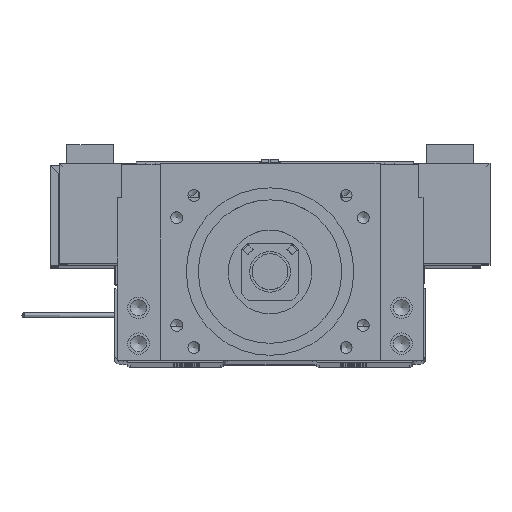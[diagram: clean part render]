
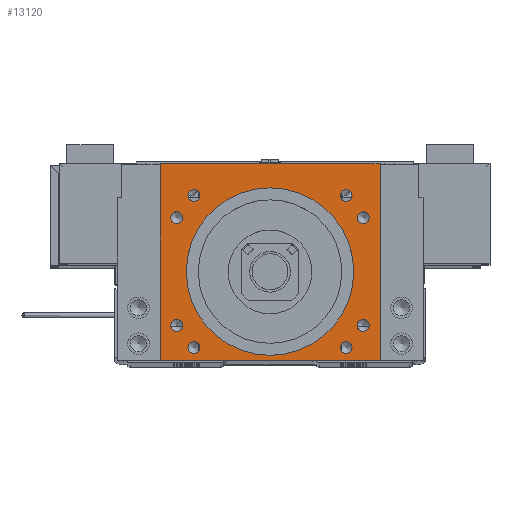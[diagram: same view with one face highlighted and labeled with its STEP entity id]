
A CAD part, top view. The second image highlights one B-rep face of the part: STEP entity #13120.
In plain terms, the highlighted planar face has unit normal (0, 0, 1).
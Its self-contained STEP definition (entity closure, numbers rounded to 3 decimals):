
#1731=CIRCLE('',#43298,35.015);
#1732=CIRCLE('',#43300,2.5);
#1733=CIRCLE('',#43301,2.5);
#1734=CIRCLE('',#43302,2.5);
#1735=CIRCLE('',#43303,2.5);
#1736=CIRCLE('',#43304,2.5);
#1737=CIRCLE('',#43305,2.5);
#1738=CIRCLE('',#43306,2.5);
#1739=CIRCLE('',#43307,2.5);
#2469=FACE_BOUND('',#19842,.T.);
#2470=FACE_BOUND('',#19843,.T.);
#2471=FACE_BOUND('',#19844,.T.);
#2472=FACE_BOUND('',#19845,.T.);
#2473=FACE_BOUND('',#19846,.T.);
#2474=FACE_BOUND('',#19847,.T.);
#2475=FACE_BOUND('',#19848,.T.);
#2476=FACE_BOUND('',#19849,.T.);
#2477=FACE_BOUND('',#19850,.T.);
#2478=FACE_BOUND('',#19851,.T.);
#3601=LINE('',#58311,#8340);
#3947=LINE('',#59719,#8686);
#3952=LINE('',#59727,#8691);
#3957=LINE('',#59736,#8696);
#8340=VECTOR('',#46506,1.);
#8686=VECTOR('',#47620,1.);
#8691=VECTOR('',#47631,1.);
#8696=VECTOR('',#47638,1.);
#13120=ADVANCED_FACE('',(#2469,#2470,#2471,#2472,#2473,#2474,#2475,#2476,
#2477,#2478),#15510,.T.);
#15510=PLANE('',#43308);
#19842=EDGE_LOOP('',(#24144,#24145,#24146,#24147));
#19843=EDGE_LOOP('',(#24148));
#19844=EDGE_LOOP('',(#24149));
#19845=EDGE_LOOP('',(#24150));
#19846=EDGE_LOOP('',(#24151));
#19847=EDGE_LOOP('',(#24152));
#19848=EDGE_LOOP('',(#24153));
#19849=EDGE_LOOP('',(#24154));
#19850=EDGE_LOOP('',(#24155));
#19851=EDGE_LOOP('',(#24156));
#24144=ORIENTED_EDGE('',*,*,#37989,.T.);
#24145=ORIENTED_EDGE('',*,*,#37442,.T.);
#24146=ORIENTED_EDGE('',*,*,#37984,.T.);
#24147=ORIENTED_EDGE('',*,*,#37994,.T.);
#24148=ORIENTED_EDGE('',*,*,#38002,.F.);
#24149=ORIENTED_EDGE('',*,*,#38003,.T.);
#24150=ORIENTED_EDGE('',*,*,#38004,.T.);
#24151=ORIENTED_EDGE('',*,*,#38005,.F.);
#24152=ORIENTED_EDGE('',*,*,#38001,.F.);
#24153=ORIENTED_EDGE('',*,*,#38006,.T.);
#24154=ORIENTED_EDGE('',*,*,#38007,.T.);
#24155=ORIENTED_EDGE('',*,*,#38008,.T.);
#24156=ORIENTED_EDGE('',*,*,#38009,.T.);
#33734=VERTEX_POINT('',#58310);
#33735=VERTEX_POINT('',#58312);
#34118=VERTEX_POINT('',#59717);
#34120=VERTEX_POINT('',#59728);
#34126=VERTEX_POINT('',#59752);
#34127=VERTEX_POINT('',#59755);
#34128=VERTEX_POINT('',#59757);
#34129=VERTEX_POINT('',#59759);
#34130=VERTEX_POINT('',#59761);
#34131=VERTEX_POINT('',#59763);
#34132=VERTEX_POINT('',#59765);
#34133=VERTEX_POINT('',#59767);
#34134=VERTEX_POINT('',#59769);
#37442=EDGE_CURVE('',#33735,#33734,#3601,.T.);
#37984=EDGE_CURVE('',#33734,#34118,#3947,.T.);
#37989=EDGE_CURVE('',#34120,#33735,#3952,.T.);
#37994=EDGE_CURVE('',#34118,#34120,#3957,.T.);
#38001=EDGE_CURVE('',#34126,#34126,#1731,.T.);
#38002=EDGE_CURVE('',#34127,#34127,#1732,.T.);
#38003=EDGE_CURVE('',#34128,#34128,#1733,.T.);
#38004=EDGE_CURVE('',#34129,#34129,#1734,.T.);
#38005=EDGE_CURVE('',#34130,#34130,#1735,.T.);
#38006=EDGE_CURVE('',#34131,#34131,#1736,.T.);
#38007=EDGE_CURVE('',#34132,#34132,#1737,.T.);
#38008=EDGE_CURVE('',#34133,#34133,#1738,.T.);
#38009=EDGE_CURVE('',#34134,#34134,#1739,.T.);
#43298=AXIS2_PLACEMENT_3D('',#59751,#47657,#47658);
#43300=AXIS2_PLACEMENT_3D('',#59754,#47661,#47662);
#43301=AXIS2_PLACEMENT_3D('',#59756,#47663,#47664);
#43302=AXIS2_PLACEMENT_3D('',#59758,#47665,#47666);
#43303=AXIS2_PLACEMENT_3D('',#59760,#47667,#47668);
#43304=AXIS2_PLACEMENT_3D('',#59762,#47669,#47670);
#43305=AXIS2_PLACEMENT_3D('',#59764,#47671,#47672);
#43306=AXIS2_PLACEMENT_3D('',#59766,#47673,#47674);
#43307=AXIS2_PLACEMENT_3D('',#59768,#47675,#47676);
#43308=AXIS2_PLACEMENT_3D('',#59770,#47677,#47678);
#46506=DIRECTION('',(-1.,0.,0.));
#47620=DIRECTION('',(0.,-1.,0.));
#47631=DIRECTION('',(0.,1.,0.));
#47638=DIRECTION('',(1.,0.,0.));
#47657=DIRECTION('',(0.,0.,1.));
#47658=DIRECTION('',(1.,0.,0.));
#47661=DIRECTION('',(0.,0.,1.));
#47662=DIRECTION('',(-1.,0.,0.));
#47663=DIRECTION('',(0.,0.,-1.));
#47664=DIRECTION('',(1.,0.,0.));
#47665=DIRECTION('',(0.,0.,-1.));
#47666=DIRECTION('',(1.,0.,0.));
#47667=DIRECTION('',(0.,0.,1.));
#47668=DIRECTION('',(-1.,0.,0.));
#47669=DIRECTION('',(0.,0.,-1.));
#47670=DIRECTION('',(1.,0.,0.));
#47671=DIRECTION('',(0.,0.,-1.));
#47672=DIRECTION('',(1.,0.,0.));
#47673=DIRECTION('',(0.,0.,-1.));
#47674=DIRECTION('',(1.,0.,0.));
#47675=DIRECTION('',(0.,0.,-1.));
#47676=DIRECTION('',(1.,0.,0.));
#47677=DIRECTION('',(0.,0.,1.));
#47678=DIRECTION('',(1.,0.,0.));
#58310=CARTESIAN_POINT('',(-46.,83.,100.));
#58311=CARTESIAN_POINT('',(0.,83.,100.));
#58312=CARTESIAN_POINT('',(46.,83.,100.));
#59717=CARTESIAN_POINT('',(-46.,1.,100.));
#59719=CARTESIAN_POINT('',(-46.,38.,100.));
#59727=CARTESIAN_POINT('',(46.,38.,100.));
#59728=CARTESIAN_POINT('',(46.,1.,100.));
#59736=CARTESIAN_POINT('',(0.,1.,100.));
#59751=CARTESIAN_POINT('',(0.,38.,100.));
#59752=CARTESIAN_POINT('',(35.015,38.,100.));
#59754=CARTESIAN_POINT('',(-38.971,15.5,100.));
#59755=CARTESIAN_POINT('',(-41.471,15.5,100.));
#59756=CARTESIAN_POINT('',(38.971,60.5,100.));
#59757=CARTESIAN_POINT('',(41.471,60.5,100.));
#59758=CARTESIAN_POINT('',(38.971,15.5,100.));
#59759=CARTESIAN_POINT('',(41.471,15.5,100.));
#59760=CARTESIAN_POINT('',(-38.971,60.5,100.));
#59761=CARTESIAN_POINT('',(-41.471,60.5,100.));
#59762=CARTESIAN_POINT('',(-31.82,69.82,100.));
#59763=CARTESIAN_POINT('',(-29.32,69.82,100.));
#59764=CARTESIAN_POINT('',(-31.82,6.18,100.));
#59765=CARTESIAN_POINT('',(-29.32,6.18,100.));
#59766=CARTESIAN_POINT('',(31.82,6.18,100.));
#59767=CARTESIAN_POINT('',(34.32,6.18,100.));
#59768=CARTESIAN_POINT('',(31.82,69.82,100.));
#59769=CARTESIAN_POINT('',(34.32,69.82,100.));
#59770=CARTESIAN_POINT('',(0.,38.,100.));
